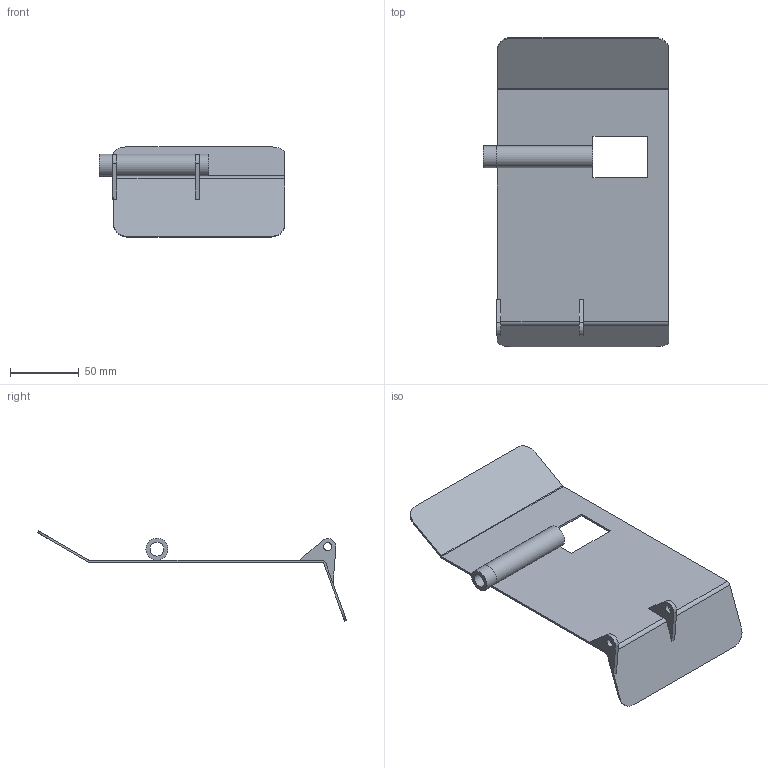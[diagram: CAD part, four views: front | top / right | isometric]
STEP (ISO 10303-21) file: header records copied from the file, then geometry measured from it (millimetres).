
FILE_DESCRIPTION( ( 'Unknown' ), '1' );
FILE_NAME( 'F:/navkite transat/construction/2016/3D ET ASSEMBLAGES/desal/DES 27 SYM.stp', 'Unknown', ( 'GMA' ), ( 'Unknown' ), 'XStep 1.0', 'Unknown', ' ' );
FILE_SCHEMA( ( 'automotive_design' ) );
Length unit declared in the file: millimetre
Products named in the file (2): 1
Bounding box: 135.3 x 225.03 x 65.6 mm (x, y, z)
Volume: 58306.3 mm3; surface area: 71917.5 mm2
Topology: 2 solids, 2 shells, 44 faces, 115 edges, 76 vertices
Faces by surface type: plane 27, cylinder 17
Full cylindrical faces by diameter (mm): 6 x2, 10 x1, 15.99 x1, 16 x1
Entity records: 1731 total; most frequent: DIRECTION 236, CARTESIAN_POINT 232, ORIENTED_EDGE 220, EDGE_CURVE 110, AXIS2_PLACEMENT_3D 80, VERTEX_POINT 76, LINE 76, VECTOR 76
